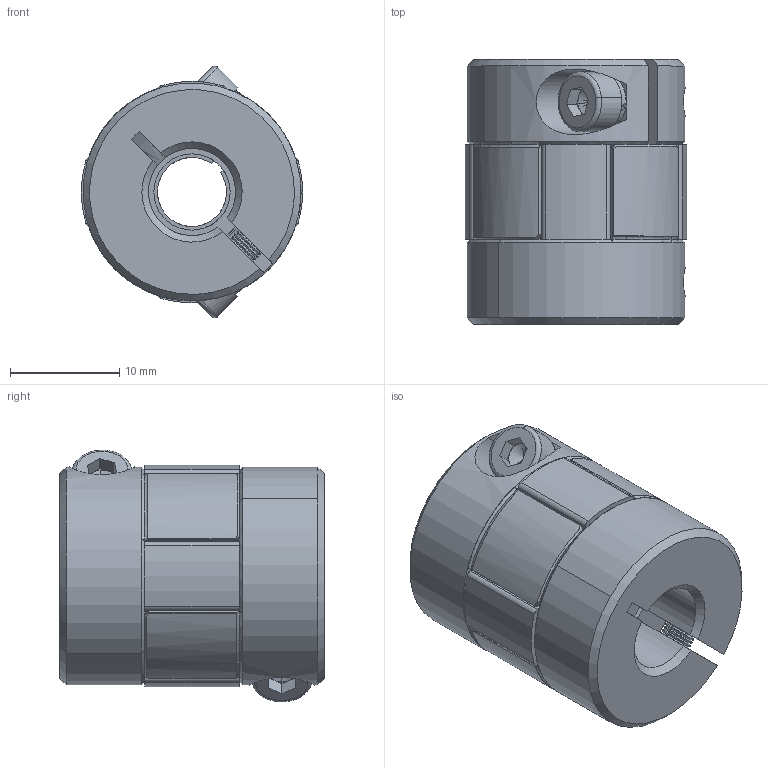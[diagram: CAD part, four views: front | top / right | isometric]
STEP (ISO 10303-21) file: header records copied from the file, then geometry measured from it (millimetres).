
FILE_DESCRIPTION (( 'STEP AP203' ), '1' );
FILE_NAME ('LF-B-D20L25-6.35-8.STEP', '2021-10-20T01:51:59', ( '' ), ( '' ), 'SwSTEP 2.0', 'SolidWorks 2018', '' );
FILE_SCHEMA (( 'CONFIG_CONTROL_DESIGN' ));
Length unit declared in the file: millimetre
Products named in the file (1): LF-B-D20L25-6.35-8
Bounding box: 20.31 x 24.3 x 23.09 mm (x, y, z)
Volume: 6410.4 mm3; surface area: 3576.9 mm2
Topology: 1 solids, 1 shells, 430 faces, 1072 edges, 635 vertices
Faces by surface type: cylinder 167, cone 158, plane 93, torus 12
Entity records: 13138 total; most frequent: CARTESIAN_POINT 2724, DIRECTION 2323, ORIENTED_EDGE 2136, EDGE_CURVE 1068, AXIS2_PLACEMENT_3D 956, VERTEX_POINT 635, CIRCLE 525, EDGE_LOOP 447
